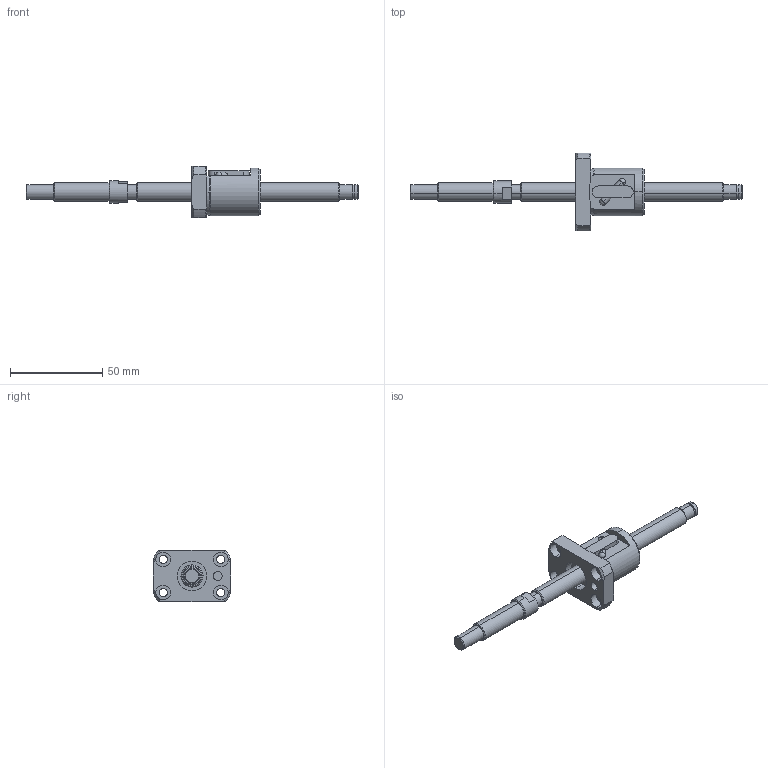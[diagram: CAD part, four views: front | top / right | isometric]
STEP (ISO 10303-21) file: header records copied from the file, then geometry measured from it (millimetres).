
FILE_DESCRIPTION (( 'STEP AP203' ), '1' );
FILE_NAME ('TS1004 assy_20160716.STEP', '2016-07-16T04:48:04', ( 'user' ), ( 'Hewlett-Packard Company' ), 'SwSTEP 2.0', 'SolidWorks 2014', '' );
FILE_SCHEMA (( 'CONFIG_CONTROL_DESIGN' ));
Length unit declared in the file: millimetre
Products named in the file (3): TS1004 assy_20160716; TS1004 screw; TS1004 nut
Assembly tree (2 placements, depth 2):
  TS1004 assy_20160716
    TS1004 screw
    TS1004 nut
Bounding box: 180 x 42 x 28 mm (x, y, z)
Volume: 31696.3 mm3; surface area: 13491.1 mm2
Topology: 2 solids, 2 shells, 121 faces, 298 edges, 191 vertices
Faces by surface type: cylinder 56, plane 34, cone 28, sphere 3
Entity records: 3943 total; most frequent: CARTESIAN_POINT 687, DIRECTION 676, ORIENTED_EDGE 588, EDGE_CURVE 294, AXIS2_PLACEMENT_3D 282, VERTEX_POINT 189, CIRCLE 156, EDGE_LOOP 143
